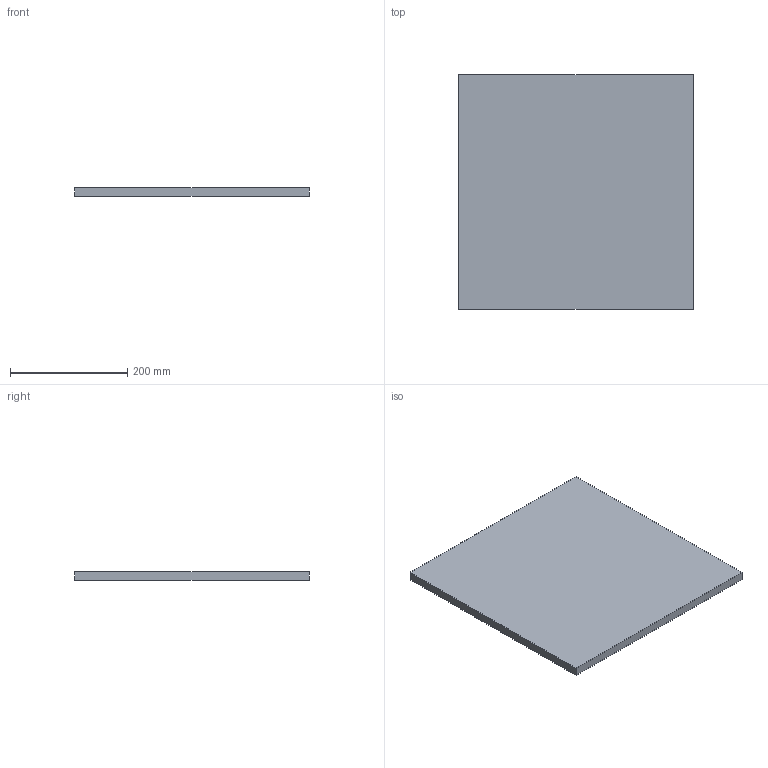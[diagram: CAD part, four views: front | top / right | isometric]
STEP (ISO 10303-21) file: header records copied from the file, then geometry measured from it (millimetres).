
FILE_DESCRIPTION(('Open CASCADE Model'),'2;1');
FILE_NAME('Open CASCADE Shape Model','2026-10-10T15:34:57',('Author'),( 'Open CASCADE'),'Open CASCADE STEP processor 7.9','Open CASCADE 7.9' ,'Unknown');
FILE_SCHEMA(('AUTOMOTIVE_DESIGN { 1 0 10303 214 1 1 1 1 }'));
Length unit declared in the file: millimetre
Products named in the file (1): Open CASCADE STEP translator 7.9 3
Bounding box: 400 x 400 x 15 mm (x, y, z)
Volume: 2400000 mm3; surface area: 344000 mm2
Topology: 1 solids, 1 shells, 6 faces, 12 edges, 8 vertices
Faces by surface type: plane 6
Entity records: 322 total; most frequent: CARTESIAN_POINT 51, DIRECTION 50, LINE 36, VECTOR 36, ORIENTED_EDGE 24, PCURVE 24, DEFINITIONAL_REPRESENTATION 24, EDGE_CURVE 12
